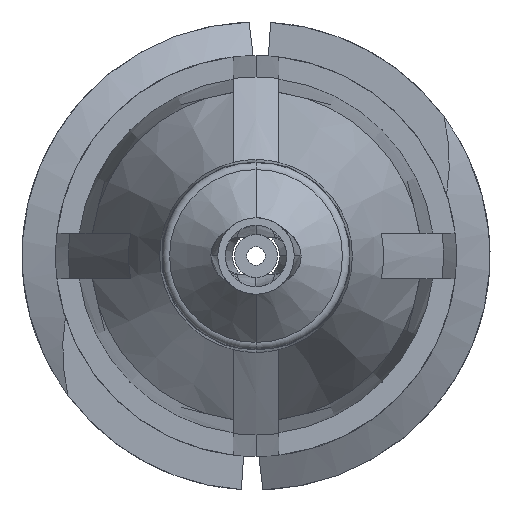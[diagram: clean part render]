
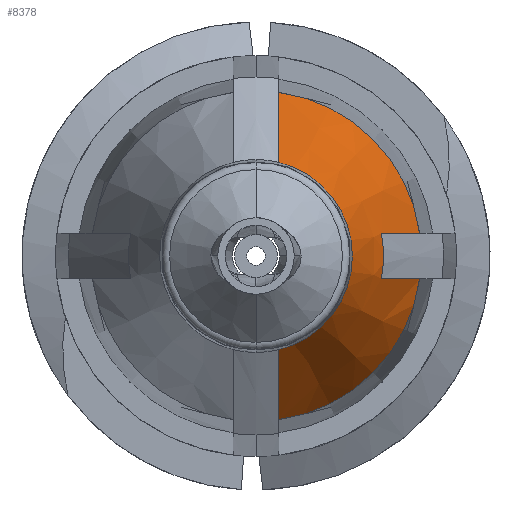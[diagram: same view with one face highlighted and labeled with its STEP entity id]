
A CAD part, front view. The second image highlights one B-rep face of the part: STEP entity #8378.
In plain terms, the highlighted conical face has half-angle 20 degrees and reference radius 2.745 mm.
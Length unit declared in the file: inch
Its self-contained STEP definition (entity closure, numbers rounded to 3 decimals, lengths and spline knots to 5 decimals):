
#100 = CARTESIAN_POINT ( 'NONE',  ( 0., -0.406, 0. ) ) ;
#106 = CARTESIAN_POINT ( 'NONE',  ( 0., -0.406, 0. ) ) ;
#157 = DIRECTION ( 'NONE',  ( 0., 1., 0. ) ) ;
#483 = CARTESIAN_POINT ( 'NONE',  ( 0.015, -0.44732, 0.09185 ) ) ;
#734 = AXIS2_PLACEMENT_3D ( 'NONE', #106, #157, #9662 ) ;
#967 = CARTESIAN_POINT ( 'NONE',  ( 0.0987, -0.42866, 0.015 ) ) ;
#1723 = CARTESIAN_POINT ( 'NONE',  ( 0.015, -0.406, 0.10703 ) ) ;
#2056 = CARTESIAN_POINT ( 'NONE',  ( 0.10703, -0.406, 0.015 ) ) ;
#2730 = EDGE_CURVE ( 'NONE', #14329, #15434, #13027, .T. ) ;
#3155 = EDGE_CURVE ( 'NONE', #13291, #8392, #4115, .T. ) ;
#3568 = ORIENTED_EDGE ( 'NONE', *, *, #14704, .F. ) ;
#3679 = VERTEX_POINT ( 'NONE', #11129 ) ;
#4115 = CIRCLE ( 'NONE', #10769, 0.10808 ) ;
#4323 = DIRECTION ( 'NONE',  ( 0., 0., 1. ) ) ;
#4385 = B_SPLINE_CURVE_WITH_KNOTS ( 'NONE', 3,
 ( #2056, #967, #5788, #11518 ),
 .UNSPECIFIED., .F., .F.,
 ( 4, 4 ),
 ( 0.00343, 0.00527 ),
 .UNSPECIFIED. ) ;
#4496 = FACE_OUTER_BOUND ( 'NONE', #11058, .T. ) ;
#4845 = CARTESIAN_POINT ( 'NONE',  ( 0.09036, -0.45131, -0.015 ) ) ;
#4890 = DIRECTION ( 'NONE',  ( 0., 0., 1. ) ) ;
#5158 = B_SPLINE_CURVE_WITH_KNOTS ( 'NONE', 3,
 ( #12770, #9313, #10532, #6979 ),
 .UNSPECIFIED., .F., .F.,
 ( 4, 4 ),
 ( 0.00282, 0.00617 ),
 .UNSPECIFIED. ) ;
#5712 = DIRECTION ( 'NONE',  ( 0., 1., 0. ) ) ;
#5788 = CARTESIAN_POINT ( 'NONE',  ( 0.09036, -0.45131, 0.015 ) ) ;
#6108 = ORIENTED_EDGE ( 'NONE', *, *, #11032, .F. ) ;
#6241 = B_SPLINE_CURVE_WITH_KNOTS ( 'NONE', 3,
 ( #11761, #4845, #9568, #14163 ),
 .UNSPECIFIED., .F., .F.,
 ( 4, 4 ),
 ( 0.00247, 0.00431 ),
 .UNSPECIFIED. ) ;
#6979 = CARTESIAN_POINT ( 'NONE',  ( 0.015, -0.406, -0.10703 ) ) ;
#6997 = AXIS2_PLACEMENT_3D ( 'NONE', #9185, #5712, #4323 ) ;
#7216 = EDGE_CURVE ( 'NONE', #11893, #7315, #9701, .T. ) ;
#7275 = ORIENTED_EDGE ( 'NONE', *, *, #7216, .T. ) ;
#7315 = VERTEX_POINT ( 'NONE', #11605 ) ;
#7950 = DIRECTION ( 'NONE',  ( 0., 0., 1. ) ) ;
#8317 = CARTESIAN_POINT ( 'NONE',  ( 0.015, -0.406, 0.10703 ) ) ;
#8378 = ADVANCED_FACE ( 'NONE', ( #4496 ), #9876, .T. ) ;
#8392 = VERTEX_POINT ( 'NONE', #10294 ) ;
#8399 = DIRECTION ( 'NONE',  ( 0., 1., 0. ) ) ;
#8827 = B_SPLINE_CURVE_WITH_KNOTS ( 'NONE', 3,
 ( #12271, #8829, #483, #1723 ),
 .UNSPECIFIED., .F., .F.,
 ( 4, 4 ),
 ( 0.00282, 0.00617 ),
 .UNSPECIFIED. ) ;
#8829 = CARTESIAN_POINT ( 'NONE',  ( 0.015, -0.48863, 0.07664 ) ) ;
#8901 = VERTEX_POINT ( 'NONE', #8317 ) ;
#9185 = CARTESIAN_POINT ( 'NONE',  ( 0., -0.406, 0. ) ) ;
#9201 = CARTESIAN_POINT ( 'NONE',  ( 0., -0.47395, 0. ) ) ;
#9313 = CARTESIAN_POINT ( 'NONE',  ( 0.015, -0.48863, -0.07664 ) ) ;
#9368 = ORIENTED_EDGE ( 'NONE', *, *, #3155, .F. ) ;
#9568 = CARTESIAN_POINT ( 'NONE',  ( 0.0987, -0.42866, -0.015 ) ) ;
#9662 = DIRECTION ( 'NONE',  ( 0., 0., 1. ) ) ;
#9701 = CIRCLE ( 'NONE', #12882, 0.063 ) ;
#9876 = CONICAL_SURFACE ( 'NONE', #6997, 0.10808, 0.349 ) ;
#10294 = CARTESIAN_POINT ( 'NONE',  ( 0.015, -0.406, -0.10703 ) ) ;
#10297 = ORIENTED_EDGE ( 'NONE', *, *, #12527, .T. ) ;
#10362 = CARTESIAN_POINT ( 'NONE',  ( 0., -0.52985, 0. ) ) ;
#10363 = DIRECTION ( 'NONE',  ( 0., 0., -1. ) ) ;
#10411 = DIRECTION ( 'NONE',  ( 0., 1., 0. ) ) ;
#10532 = CARTESIAN_POINT ( 'NONE',  ( 0.015, -0.44732, -0.09185 ) ) ;
#10769 = AXIS2_PLACEMENT_3D ( 'NONE', #100, #8399, #4890 ) ;
#11032 = EDGE_CURVE ( 'NONE', #15434, #13291, #6241, .T. ) ;
#11058 = EDGE_LOOP ( 'NONE', ( #3568, #7275, #10297, #9368, #6108, #11795, #12331, #11697 ) ) ;
#11129 = CARTESIAN_POINT ( 'NONE',  ( 0.10703, -0.406, 0.015 ) ) ;
#11518 = CARTESIAN_POINT ( 'NONE',  ( 0.08198, -0.47395, 0.015 ) ) ;
#11605 = CARTESIAN_POINT ( 'NONE',  ( 0.015, -0.52985, -0.06119 ) ) ;
#11697 = ORIENTED_EDGE ( 'NONE', *, *, #13630, .F. ) ;
#11751 = DIRECTION ( 'NONE',  ( 0., 1., 0. ) ) ;
#11761 = CARTESIAN_POINT ( 'NONE',  ( 0.08198, -0.47395, -0.015 ) ) ;
#11795 = ORIENTED_EDGE ( 'NONE', *, *, #2730, .F. ) ;
#11893 = VERTEX_POINT ( 'NONE', #12509 ) ;
#12269 = CIRCLE ( 'NONE', #734, 0.10808 ) ;
#12271 = CARTESIAN_POINT ( 'NONE',  ( 0.015, -0.52985, 0.06119 ) ) ;
#12331 = ORIENTED_EDGE ( 'NONE', *, *, #12510, .F. ) ;
#12509 = CARTESIAN_POINT ( 'NONE',  ( 0.015, -0.52985, 0.06119 ) ) ;
#12510 = EDGE_CURVE ( 'NONE', #3679, #14329, #4385, .T. ) ;
#12527 = EDGE_CURVE ( 'NONE', #7315, #8392, #5158, .T. ) ;
#12770 = CARTESIAN_POINT ( 'NONE',  ( 0.015, -0.52985, -0.06119 ) ) ;
#12882 = AXIS2_PLACEMENT_3D ( 'NONE', #10362, #11751, #7950 ) ;
#13027 = CIRCLE ( 'NONE', #14166, 0.08335 ) ;
#13049 = CARTESIAN_POINT ( 'NONE',  ( 0.08198, -0.47395, 0.015 ) ) ;
#13291 = VERTEX_POINT ( 'NONE', #14921 ) ;
#13551 = CARTESIAN_POINT ( 'NONE',  ( 0.08198, -0.47395, -0.015 ) ) ;
#13630 = EDGE_CURVE ( 'NONE', #8901, #3679, #12269, .T. ) ;
#14163 = CARTESIAN_POINT ( 'NONE',  ( 0.10703, -0.406, -0.015 ) ) ;
#14166 = AXIS2_PLACEMENT_3D ( 'NONE', #9201, #10411, #10363 ) ;
#14329 = VERTEX_POINT ( 'NONE', #13049 ) ;
#14704 = EDGE_CURVE ( 'NONE', #11893, #8901, #8827, .T. ) ;
#14921 = CARTESIAN_POINT ( 'NONE',  ( 0.10703, -0.406, -0.015 ) ) ;
#15434 = VERTEX_POINT ( 'NONE', #13551 ) ;
